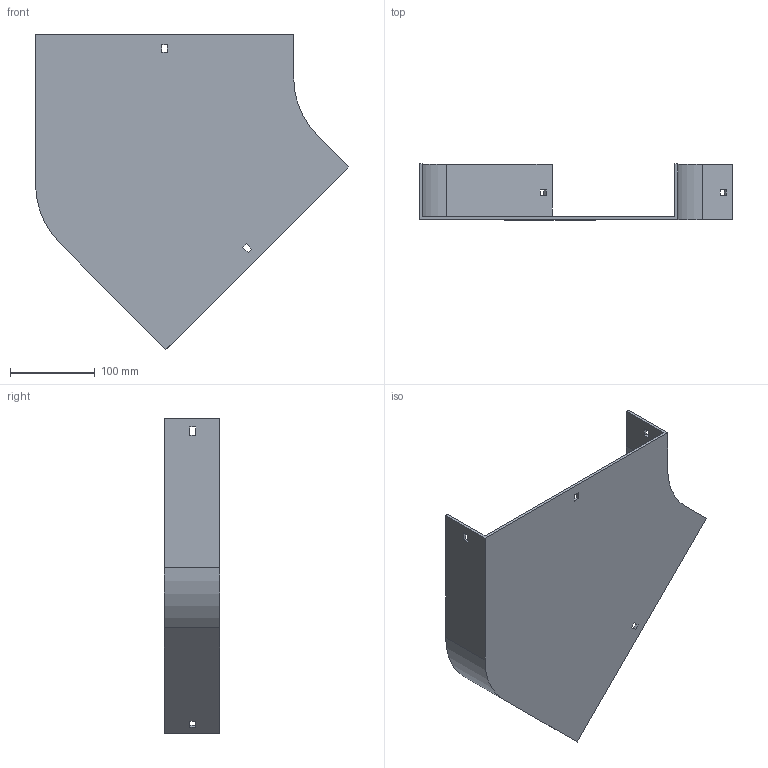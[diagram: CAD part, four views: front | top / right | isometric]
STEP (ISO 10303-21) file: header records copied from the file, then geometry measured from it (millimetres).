
FILE_DESCRIPTION (( 'STEP AP214' ), '1' );
FILE_NAME ('11B1H300.step', '2025-02-21T09:38:15', ( '' ), ( '' ), 'SwSTEP 2.0', 'SolidWorks 2023', '' );
FILE_SCHEMA (( 'AUTOMOTIVE_DESIGN' ));
Length unit declared in the file: millimetre
Products named in the file (1): 11B1H300
Bounding box: 368.64 x 65.5 x 371.03 mm (x, y, z)
Volume: 459271 mm3; surface area: 268260.8 mm2
Topology: 1 solids, 1 shells, 42 faces, 120 edges, 80 vertices
Faces by surface type: plane 38, cylinder 4
Entity records: 1399 total; most frequent: CARTESIAN_POINT 243, ORIENTED_EDGE 240, DIRECTION 214, EDGE_CURVE 120, LINE 112, VECTOR 112, VERTEX_POINT 80, EDGE_LOOP 54
